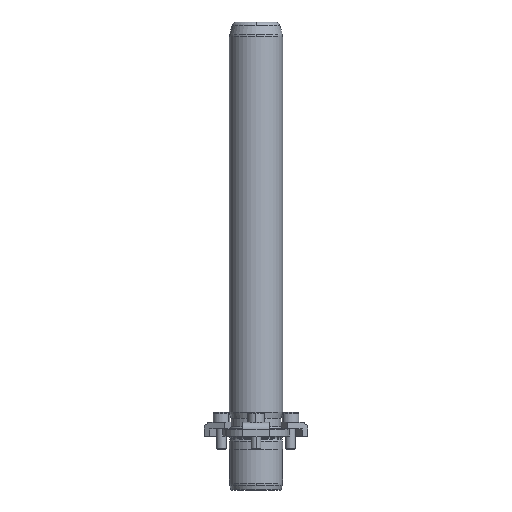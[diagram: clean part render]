
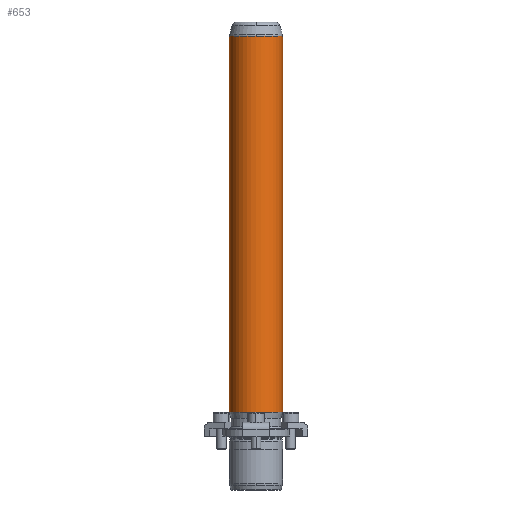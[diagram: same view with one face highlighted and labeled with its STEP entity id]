
A CAD part, front view. The second image highlights one B-rep face of the part: STEP entity #653.
In plain terms, the highlighted cylindrical face has radius 16 mm (diameter 32 mm), a partial arc.
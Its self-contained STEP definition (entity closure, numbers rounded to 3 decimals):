
#566=CARTESIAN_POINT('',(0.0,-16.,241.342));
#567=VERTEX_POINT('',#566);
#594=CARTESIAN_POINT('',(-16.0,0.,241.342));
#595=VERTEX_POINT('',#594);
#603=CARTESIAN_POINT('',(0.0,0.,241.342));
#604=DIRECTION('',(0.0,0.0,1.0));
#605=DIRECTION('',(1.0,0.0,0.0));
#606=AXIS2_PLACEMENT_3D('',#603,#604,#605);
#607=CIRCLE('',#606,16.0);
#608=EDGE_CURVE('',#595,#567,#607,.T.);
#613=CARTESIAN_POINT('',(0.0,0.,128.171));
#614=DIRECTION('',(0.0,0.,1.0));
#615=DIRECTION('',(1.0,0.0,0.0));
#616=AXIS2_PLACEMENT_3D('',#613,#614,#615);
#617=CYLINDRICAL_SURFACE('',#616,16.0);
#618=CARTESIAN_POINT('',(16.0,0.,241.342));
#619=VERTEX_POINT('',#618);
#620=CARTESIAN_POINT('',(16.0,0.,15.0));
#621=VERTEX_POINT('',#620);
#622=CARTESIAN_POINT('',(16.0,0.,241.342));
#623=DIRECTION('',(0.0,0.0,-1.0));
#624=VECTOR('',#623,226.342);
#625=LINE('',#622,#624);
#626=EDGE_CURVE('',#619,#621,#625,.T.);
#627=ORIENTED_EDGE('',*,*,#626,.F.);
#628=CARTESIAN_POINT('',(0.0,0.,241.342));
#629=DIRECTION('',(0.0,0.0,1.0));
#630=DIRECTION('',(1.0,0.0,0.0));
#631=AXIS2_PLACEMENT_3D('',#628,#629,#630);
#632=CIRCLE('',#631,16.0);
#633=EDGE_CURVE('',#567,#619,#632,.T.);
#634=ORIENTED_EDGE('',*,*,#633,.F.);
#635=ORIENTED_EDGE('',*,*,#608,.F.);
#636=CARTESIAN_POINT('',(-16.0,0.,15.0));
#637=VERTEX_POINT('',#636);
#638=CARTESIAN_POINT('',(-16.0,0.,241.342));
#639=DIRECTION('',(0.0,0.0,-1.0));
#640=VECTOR('',#639,226.342);
#641=LINE('',#638,#640);
#642=EDGE_CURVE('',#595,#637,#641,.T.);
#643=ORIENTED_EDGE('',*,*,#642,.T.);
#644=CARTESIAN_POINT('',(0.0,0.,15.0));
#645=DIRECTION('',(0.0,0.0,1.0));
#646=DIRECTION('',(1.0,0.0,0.0));
#647=AXIS2_PLACEMENT_3D('',#644,#645,#646);
#648=CIRCLE('',#647,16.0);
#649=EDGE_CURVE('',#637,#621,#648,.T.);
#650=ORIENTED_EDGE('',*,*,#649,.T.);
#651=EDGE_LOOP('',(#627,#634,#635,#643,#650));
#652=FACE_OUTER_BOUND('',#651,.T.);
#653=ADVANCED_FACE('',(#652),#617,.T.);
